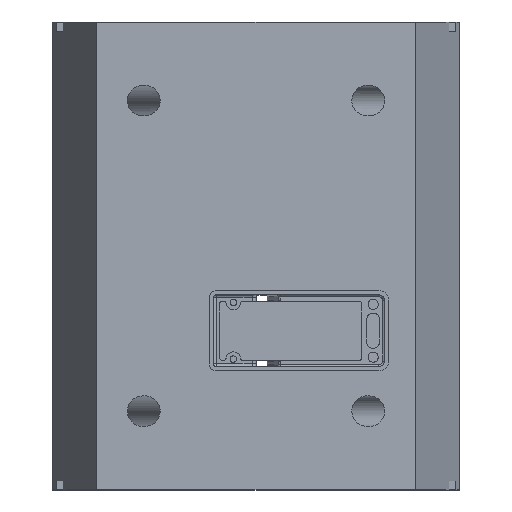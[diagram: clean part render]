
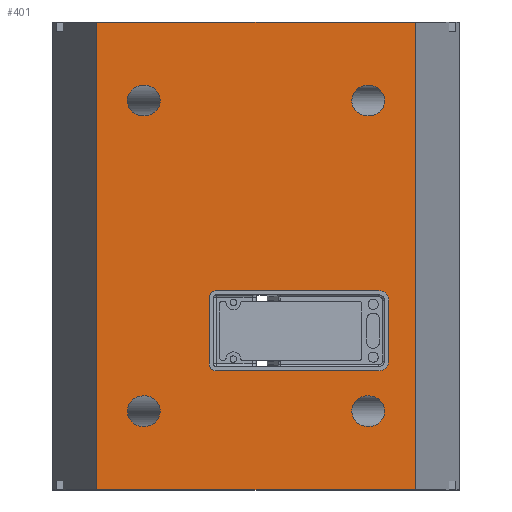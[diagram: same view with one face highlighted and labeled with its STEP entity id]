
A CAD part, top view. The second image highlights one B-rep face of the part: STEP entity #401.
In plain terms, the highlighted planar face has unit normal (0, 0, 1).
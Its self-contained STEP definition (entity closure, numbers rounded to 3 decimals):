
#401 = ADVANCED_FACE( '', ( #1160, #1161, #1162, #1163, #1164, #1165 ), #1166, .T. );
#1160 = FACE_BOUND( '', #2350, .T. );
#1161 = FACE_BOUND( '', #2351, .T. );
#1162 = FACE_BOUND( '', #2352, .T. );
#1163 = FACE_BOUND( '', #2353, .T. );
#1164 = FACE_OUTER_BOUND( '', #2354, .T. );
#1165 = FACE_BOUND( '', #2355, .T. );
#1166 = PLANE( '', #2356 );
#2350 = EDGE_LOOP( '', ( #6300, #6301, #6302, #6303, #6304, #6305, #6306, #6307 ) );
#2351 = EDGE_LOOP( '', ( #6308 ) );
#2352 = EDGE_LOOP( '', ( #6309 ) );
#2353 = EDGE_LOOP( '', ( #6310 ) );
#2354 = EDGE_LOOP( '', ( #6311, #6312, #6313, #6314 ) );
#2355 = EDGE_LOOP( '', ( #6315 ) );
#2356 = AXIS2_PLACEMENT_3D( '', #6316, #6317, #6318 );
#6300 = ORIENTED_EDGE( '', *, *, #9619, .F. );
#6301 = ORIENTED_EDGE( '', *, *, #9620, .F. );
#6302 = ORIENTED_EDGE( '', *, *, #9621, .F. );
#6303 = ORIENTED_EDGE( '', *, *, #9622, .F. );
#6304 = ORIENTED_EDGE( '', *, *, #9623, .F. );
#6305 = ORIENTED_EDGE( '', *, *, #9624, .F. );
#6306 = ORIENTED_EDGE( '', *, *, #9625, .F. );
#6307 = ORIENTED_EDGE( '', *, *, #9626, .F. );
#6308 = ORIENTED_EDGE( '', *, *, #9627, .F. );
#6309 = ORIENTED_EDGE( '', *, *, #9628, .T. );
#6310 = ORIENTED_EDGE( '', *, *, #9629, .F. );
#6311 = ORIENTED_EDGE( '', *, *, #9630, .T. );
#6312 = ORIENTED_EDGE( '', *, *, #9631, .T. );
#6313 = ORIENTED_EDGE( '', *, *, #9632, .T. );
#6314 = ORIENTED_EDGE( '', *, *, #9633, .T. );
#6315 = ORIENTED_EDGE( '', *, *, #9634, .T. );
#6316 = CARTESIAN_POINT( '', ( 0., 0., 0. ) );
#6317 = DIRECTION( '', ( 0., 0., 1. ) );
#6318 = DIRECTION( '', ( 1., 0., 0. ) );
#9619 = EDGE_CURVE( '', #10828, #10829, #10830, .T. );
#9620 = EDGE_CURVE( '', #10831, #10828, #10832, .T. );
#9621 = EDGE_CURVE( '', #10833, #10831, #10834, .T. );
#9622 = EDGE_CURVE( '', #10835, #10833, #10836, .T. );
#9623 = EDGE_CURVE( '', #10837, #10835, #10838, .T. );
#9624 = EDGE_CURVE( '', #10839, #10837, #10840, .T. );
#9625 = EDGE_CURVE( '', #10841, #10839, #10842, .T. );
#9626 = EDGE_CURVE( '', #10829, #10841, #10843, .T. );
#9627 = EDGE_CURVE( '', #10844, #10844, #10845, .F. );
#9628 = EDGE_CURVE( '', #10846, #10846, #10847, .F. );
#9629 = EDGE_CURVE( '', #10848, #10848, #10849, .F. );
#9630 = EDGE_CURVE( '', #10850, #10851, #10852, .T. );
#9631 = EDGE_CURVE( '', #10851, #10853, #10854, .T. );
#9632 = EDGE_CURVE( '', #10853, #10855, #10856, .T. );
#9633 = EDGE_CURVE( '', #10855, #10850, #10857, .T. );
#9634 = EDGE_CURVE( '', #10858, #10858, #10859, .F. );
#10828 = VERTEX_POINT( '', #12566 );
#10829 = VERTEX_POINT( '', #12567 );
#10830 = LINE( '', #12568, #12569 );
#10831 = VERTEX_POINT( '', #12570 );
#10832 = CIRCLE( '', #12571, 3.758 );
#10833 = VERTEX_POINT( '', #12572 );
#10834 = LINE( '', #12573, #12574 );
#10835 = VERTEX_POINT( '', #12575 );
#10836 = CIRCLE( '', #12576, 5.273 );
#10837 = VERTEX_POINT( '', #12577 );
#10838 = LINE( '', #12578, #12579 );
#10839 = VERTEX_POINT( '', #12580 );
#10840 = CIRCLE( '', #12581, 5.273 );
#10841 = VERTEX_POINT( '', #12582 );
#10842 = LINE( '', #12583, #12584 );
#10843 = CIRCLE( '', #12585, 3.758 );
#10844 = VERTEX_POINT( '', #12586 );
#10845 = ELLIPSE( '', #12587, 8.779, 8.25 );
#10846 = VERTEX_POINT( '', #12588 );
#10847 = ELLIPSE( '', #12589, 8.779, 8.25 );
#10848 = VERTEX_POINT( '', #12590 );
#10849 = ELLIPSE( '', #12591, 8.779, 8.25 );
#10850 = VERTEX_POINT( '', #12592 );
#10851 = VERTEX_POINT( '', #12593 );
#10852 = LINE( '', #12594, #12595 );
#10853 = VERTEX_POINT( '', #12596 );
#10854 = LINE( '', #12597, #12598 );
#10855 = VERTEX_POINT( '', #12599 );
#10856 = LINE( '', #12600, #12601 );
#10857 = LINE( '', #12602, #12603 );
#10858 = VERTEX_POINT( '', #12604 );
#10859 = ELLIPSE( '', #12605, 8.779, 8.25 );
#12566 = CARTESIAN_POINT( '', ( -24.968, -22.325, 0. ) );
#12567 = CARTESIAN_POINT( '', ( -24.968, -57.675, 0. ) );
#12568 = CARTESIAN_POINT( '', ( -24.968, -22.325, 0. ) );
#12569 = VECTOR( '', #16080, 1000. );
#12570 = CARTESIAN_POINT( '', ( -21.21, -18.568, 0. ) );
#12571 = AXIS2_PLACEMENT_3D( '', #16081, #16082, #16083 );
#12572 = CARTESIAN_POINT( '', ( 65.65, -18.568, 0. ) );
#12573 = CARTESIAN_POINT( '', ( 65.65, -18.568, 0. ) );
#12574 = VECTOR( '', #16084, 1000. );
#12575 = CARTESIAN_POINT( '', ( 70.923, -23.84, 0. ) );
#12576 = AXIS2_PLACEMENT_3D( '', #16085, #16086, #16087 );
#12577 = CARTESIAN_POINT( '', ( 70.923, -56.16, 0. ) );
#12578 = CARTESIAN_POINT( '', ( 70.923, -56.16, 0. ) );
#12579 = VECTOR( '', #16088, 1000. );
#12580 = CARTESIAN_POINT( '', ( 65.65, -61.433, 0. ) );
#12581 = AXIS2_PLACEMENT_3D( '', #16089, #16090, #16091 );
#12582 = CARTESIAN_POINT( '', ( -21.21, -61.433, 0. ) );
#12583 = CARTESIAN_POINT( '', ( -21.21, -61.433, 0. ) );
#12584 = VECTOR( '', #16092, 1000. );
#12585 = AXIS2_PLACEMENT_3D( '', #16093, #16094, #16095 );
#12586 = CARTESIAN_POINT( '', ( -51.221, -83., 0. ) );
#12587 = AXIS2_PLACEMENT_3D( '', #16096, #16097, #16098 );
#12588 = CARTESIAN_POINT( '', ( -51.221, 83., 0. ) );
#12589 = AXIS2_PLACEMENT_3D( '', #16099, #16100, #16101 );
#12590 = CARTESIAN_POINT( '', ( 51.221, 83., 0. ) );
#12591 = AXIS2_PLACEMENT_3D( '', #16102, #16103, #16104 );
#12592 = CARTESIAN_POINT( '', ( 85., -125., 0. ) );
#12593 = CARTESIAN_POINT( '', ( 85., 125., 0. ) );
#12594 = CARTESIAN_POINT( '', ( 85., 0., 0. ) );
#12595 = VECTOR( '', #16105, 1000. );
#12596 = CARTESIAN_POINT( '', ( -85., 125., 0. ) );
#12597 = CARTESIAN_POINT( '', ( 110., 125., 0. ) );
#12598 = VECTOR( '', #16106, 1000. );
#12599 = CARTESIAN_POINT( '', ( -85., -125., 0. ) );
#12600 = CARTESIAN_POINT( '', ( -85., 0., 0. ) );
#12601 = VECTOR( '', #16107, 1000. );
#12602 = CARTESIAN_POINT( '', ( -110., -125., 0. ) );
#12603 = VECTOR( '', #16108, 1000. );
#12604 = CARTESIAN_POINT( '', ( 51.221, -83., 0. ) );
#12605 = AXIS2_PLACEMENT_3D( '', #16109, #16110, #16111 );
#16080 = DIRECTION( '', ( 0., -1., 0. ) );
#16081 = CARTESIAN_POINT( '', ( -21.21, -22.325, 0. ) );
#16082 = DIRECTION( '', ( 0., 0., 1. ) );
#16083 = DIRECTION( '', ( 1., 0., 0. ) );
#16084 = DIRECTION( '', ( -1., 0., 0. ) );
#16085 = CARTESIAN_POINT( '', ( 65.65, -23.84, 0. ) );
#16086 = DIRECTION( '', ( 0., 0., 1. ) );
#16087 = DIRECTION( '', ( -1., 0., 0. ) );
#16088 = DIRECTION( '', ( 0., 1., 0. ) );
#16089 = CARTESIAN_POINT( '', ( 65.65, -56.16, 0. ) );
#16090 = DIRECTION( '', ( 0., 0., 1. ) );
#16091 = DIRECTION( '', ( -1., 0., 0. ) );
#16092 = DIRECTION( '', ( 1., 0., 0. ) );
#16093 = CARTESIAN_POINT( '', ( -21.21, -57.675, 0. ) );
#16094 = DIRECTION( '', ( 0., 0., 1. ) );
#16095 = DIRECTION( '', ( -1., 0., 0. ) );
#16096 = CARTESIAN_POINT( '', ( -60., -83., 0. ) );
#16097 = DIRECTION( '', ( 0., 0., -1. ) );
#16098 = DIRECTION( '', ( 1., 0., 0. ) );
#16099 = CARTESIAN_POINT( '', ( -60., 83., 0. ) );
#16100 = DIRECTION( '', ( 0., 0., 1. ) );
#16101 = DIRECTION( '', ( 1., 0., 0. ) );
#16102 = CARTESIAN_POINT( '', ( 60., 83., 0. ) );
#16103 = DIRECTION( '', ( 0., 0., -1. ) );
#16104 = DIRECTION( '', ( -1., 0., 0. ) );
#16105 = DIRECTION( '', ( 0., 1., 0. ) );
#16106 = DIRECTION( '', ( -1., 0., 0. ) );
#16107 = DIRECTION( '', ( 0., -1., 0. ) );
#16108 = DIRECTION( '', ( 1., 0., 0. ) );
#16109 = CARTESIAN_POINT( '', ( 60., -83., 0. ) );
#16110 = DIRECTION( '', ( 0., 0., 1. ) );
#16111 = DIRECTION( '', ( -1., 0., 0. ) );
